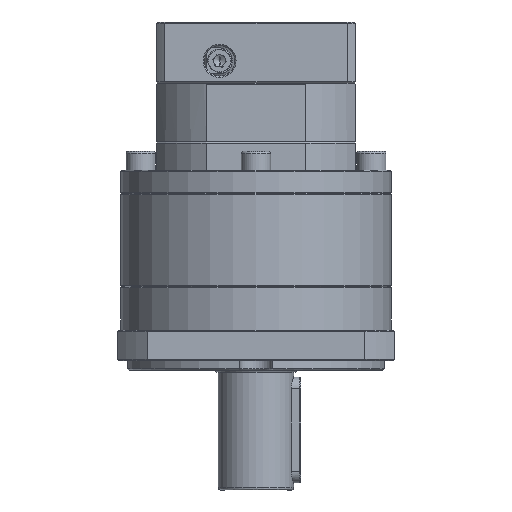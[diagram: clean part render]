
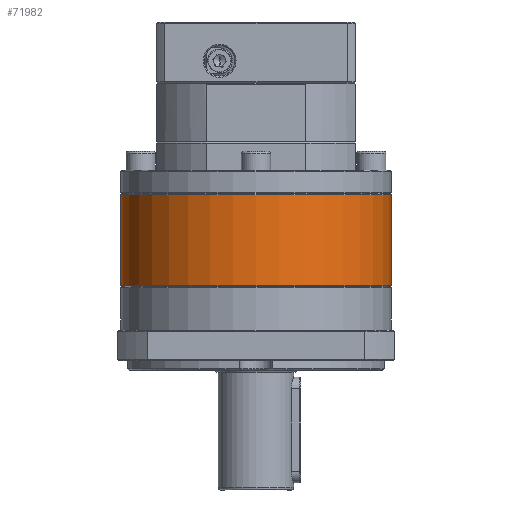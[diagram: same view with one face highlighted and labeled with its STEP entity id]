
A CAD part, front view. The second image highlights one B-rep face of the part: STEP entity #71982.
In plain terms, the highlighted cylindrical face has radius 57.5 mm (diameter 115 mm), a partial arc.
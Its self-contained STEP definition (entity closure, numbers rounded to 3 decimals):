
#2843 = CIRCLE ( 'NONE', #59567, 57.5 ) ;
#9410 = DIRECTION ( 'NONE',  ( 0., 0., -1. ) ) ;
#11641 = CARTESIAN_POINT ( 'NONE',  ( 22.184, 103.003, -103.727 ) ) ;
#15349 = VERTEX_POINT ( 'NONE', #45624 ) ;
#16511 = EDGE_CURVE ( 'NONE', #109719, #15349, #2843, .T. ) ;
#22341 = VECTOR ( 'NONE', #110578, 1000. ) ;
#26154 = VERTEX_POINT ( 'NONE', #49028 ) ;
#27134 = LINE ( 'NONE', #50778, #22341 ) ;
#30637 = DIRECTION ( 'NONE',  ( 0., 0., 1. ) ) ;
#38813 = CARTESIAN_POINT ( 'NONE',  ( 22.184, 103.003, -65.016 ) ) ;
#38959 = CARTESIAN_POINT ( 'NONE',  ( 22.184, 103.003, -64.516 ) ) ;
#40282 = DIRECTION ( 'NONE',  ( 0., 0., -1. ) ) ;
#40588 = VECTOR ( 'NONE', #40282, 1000. ) ;
#41855 = ORIENTED_EDGE ( 'NONE', *, *, #72371, .T. ) ;
#41959 = AXIS2_PLACEMENT_3D ( 'NONE', #38813, #129217, #109301 ) ;
#45624 = CARTESIAN_POINT ( 'NONE',  ( 79.684, 103.003, -103.727 ) ) ;
#46172 = EDGE_LOOP ( 'NONE', ( #50902, #41855, #47811, #95240 ) ) ;
#46954 = LINE ( 'NONE', #121846, #40588 ) ;
#47811 = ORIENTED_EDGE ( 'NONE', *, *, #109593, .T. ) ;
#49028 = CARTESIAN_POINT ( 'NONE',  ( -35.316, 103.003, -65.016 ) ) ;
#50778 = CARTESIAN_POINT ( 'NONE',  ( -35.316, 103.003, -64.516 ) ) ;
#50902 = ORIENTED_EDGE ( 'NONE', *, *, #71991, .F. ) ;
#57945 = CIRCLE ( 'NONE', #41959, 57.5 ) ;
#59567 = AXIS2_PLACEMENT_3D ( 'NONE', #11641, #30637, #101990 ) ;
#69839 = CARTESIAN_POINT ( 'NONE',  ( -35.316, 103.003, -103.727 ) ) ;
#71982 = ADVANCED_FACE ( 'NONE', ( #75660 ), #121502, .T. ) ;
#71991 = EDGE_CURVE ( 'NONE', #79305, #15349, #46954, .T. ) ;
#72371 = EDGE_CURVE ( 'NONE', #79305, #26154, #57945, .T. ) ;
#75660 = FACE_OUTER_BOUND ( 'NONE', #46172, .T. ) ;
#79305 = VERTEX_POINT ( 'NONE', #98580 ) ;
#91347 = DIRECTION ( 'NONE',  ( -1., 0., 0. ) ) ;
#95240 = ORIENTED_EDGE ( 'NONE', *, *, #16511, .T. ) ;
#98580 = CARTESIAN_POINT ( 'NONE',  ( 79.684, 103.003, -65.016 ) ) ;
#101990 = DIRECTION ( 'NONE',  ( -1., 0., 0. ) ) ;
#109301 = DIRECTION ( 'NONE',  ( -1., 0., 0. ) ) ;
#109593 = EDGE_CURVE ( 'NONE', #26154, #109719, #27134, .T. ) ;
#109719 = VERTEX_POINT ( 'NONE', #69839 ) ;
#110578 = DIRECTION ( 'NONE',  ( 0., 0., -1. ) ) ;
#121502 = CYLINDRICAL_SURFACE ( 'NONE', #131056, 57.5 ) ;
#121846 = CARTESIAN_POINT ( 'NONE',  ( 79.684, 103.003, -64.516 ) ) ;
#129217 = DIRECTION ( 'NONE',  ( 0., 0., -1. ) ) ;
#131056 = AXIS2_PLACEMENT_3D ( 'NONE', #38959, #9410, #91347 ) ;
